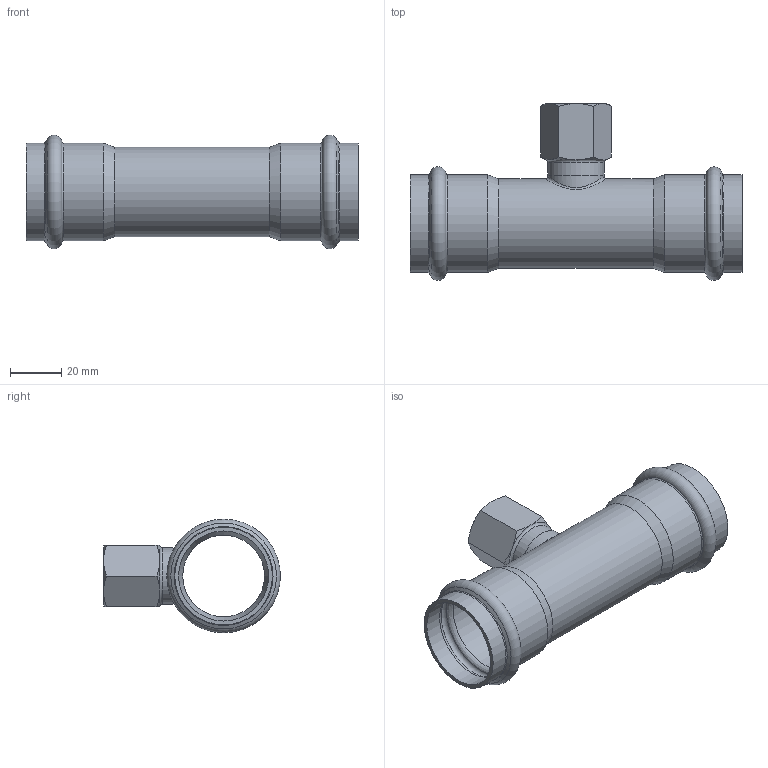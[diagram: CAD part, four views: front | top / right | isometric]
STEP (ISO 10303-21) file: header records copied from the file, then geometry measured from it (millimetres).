
FILE_DESCRIPTION((''),'2;1');
FILE_NAME('G:\Technics\CAD\Bauteile\035\69130G351235(2).stp','2008-02-28T09:12:27',('herberg'),(''),'Autodesk Inventor 2008','Autodesk Inventor 2008','');
FILE_SCHEMA(('AUTOMOTIVE_DESIGN { 1 0 10303 214 1 1 1 1 }'));
Length unit declared in the file: millimetre
Products named in the file (3): 69130G351235(2); LM_69130352235(1); IG2212(1)
Assembly tree (2 placements, depth 2):
  69130G351235(2)
    LM_69130352235(1)
    IG2212(1)
Bounding box: 130 x 69.25 x 44.49 mm (x, y, z)
Volume: 28283 mm3; surface area: 35093 mm2
Topology: 2 solids, 2 shells, 63 faces, 136 edges, 78 vertices
Faces by surface type: cone 21, bspline 14, cylinder 13, plane 11, torus 4
Full cylindrical faces by diameter (mm): 19 x1, 22 x2, 32 x1, 35 x1, 35.25 x4, 38.25 x4
Entity records: 2950 total; most frequent: CARTESIAN_POINT 1808, DIRECTION 222, ORIENTED_EDGE 178, AXIS2_PLACEMENT_3D 108, EDGE_LOOP 108, EDGE_CURVE 89, VERTEX_POINT 69, FACE_OUTER_BOUND 63
